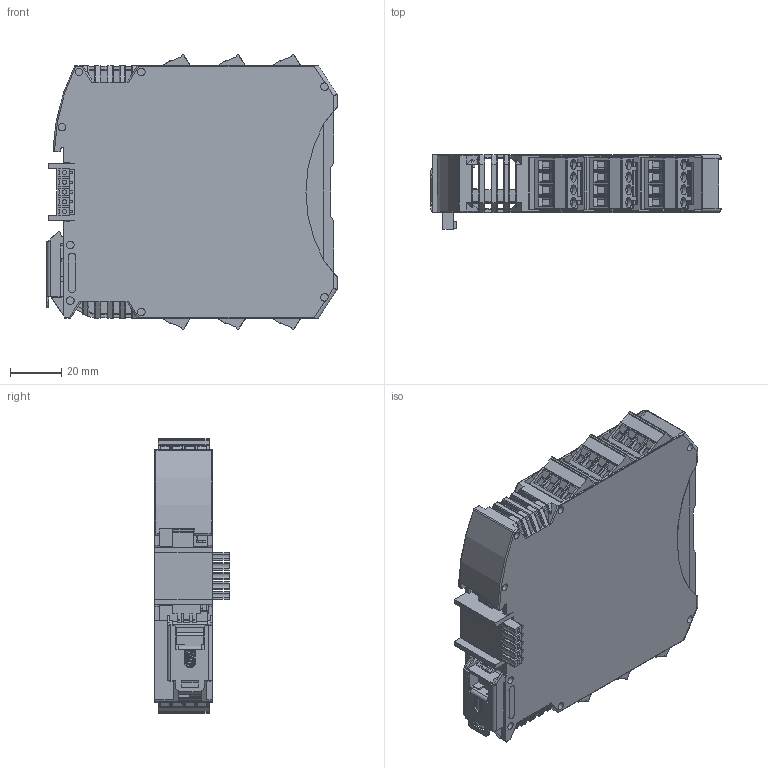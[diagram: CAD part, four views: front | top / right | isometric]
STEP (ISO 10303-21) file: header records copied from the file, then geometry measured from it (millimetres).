
FILE_DESCRIPTION(('STEP AP214'), '1');
FILE_NAME('NLS-4C-24V', '', ('UNSPECIFIED'), ('UNSPECIFIED'), 'C3D Converter', 'C3D Toolkit', '');
FILE_SCHEMA(('AUTOMOTIVE_DESIGN { 1 0 10303 214 3 1 1}'));
Length unit declared in the file: millimetre
Bounding box: 113.65 x 29.2 x 107.69 mm (x, y, z)
Volume: 84247.1 mm3; surface area: 104998.5 mm2
Topology: 1 solids, 67 shells, 5442 faces, 15585 edges, 10260 vertices
Faces by surface type: plane 3953, cylinder 932, extrusion 499, cone 50, bspline 6, torus 2
Full cylindrical faces by diameter (mm): 1.4 x28, 1.6 x35, 2.2 x12, 2.8 x1, 3 x16, 3.796 x24, 4 x24, 4.5 x1
Entity records: 237177 total; most frequent: CARTESIAN_POINT 53621, ORIENTED_EDGE 30862, DIRECTION 26043, EDGE_CURVE 15431, VECTOR 12209, LINE 11710, VERTEX_POINT 10260, AXIS2_PLACEMENT_3D 6917
